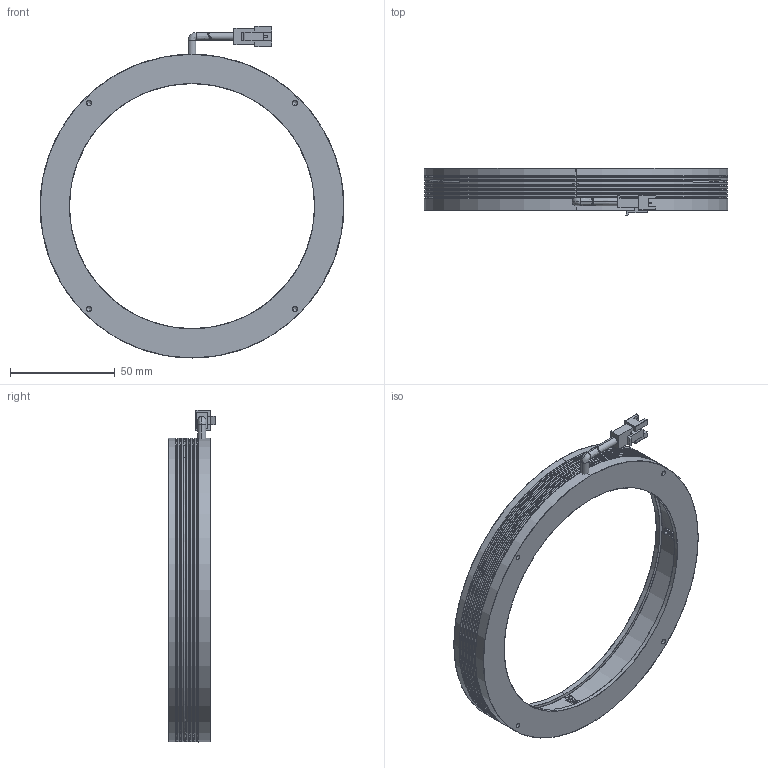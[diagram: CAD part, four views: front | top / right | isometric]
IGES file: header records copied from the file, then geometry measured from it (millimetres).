
Start section: SolidWorks IGES file using analytic representation for surfaces
Global section: file name: E:\SynologyDrive\新款图纸\标准产品\环光\环光90\R14590-117\ED\R14590-117.IGS; native system: SolidWorks 2020; preprocessor: SolidWorks 2020; author: Administrator; date: 200827.110907; units: millimetre
Bounding box: 145 x 22.65 x 158.5 mm (x, y, z)
Surface area: 55673.6 mm2 (no closed solid volume)
Topology: 0 solids, 0 shells, 256 faces, 3612 edges, 3588 vertices
Faces by surface type: bspline 146, revolution 110
